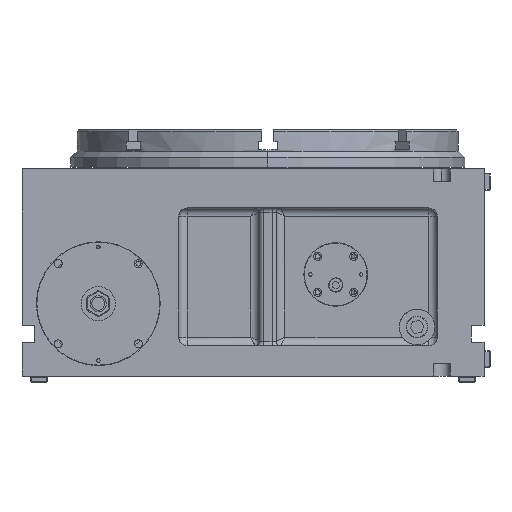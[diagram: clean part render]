
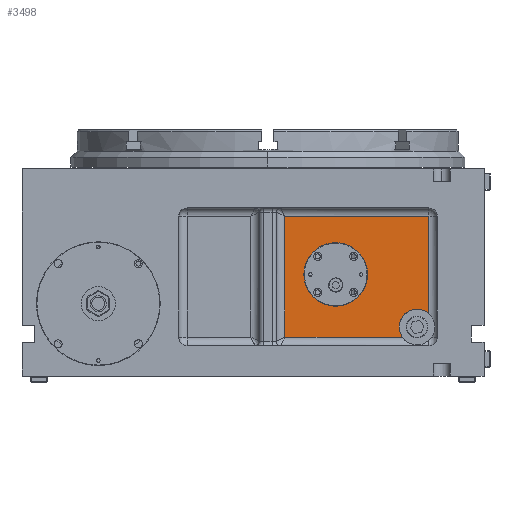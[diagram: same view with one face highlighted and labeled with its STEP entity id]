
A CAD part, left-side view. The second image highlights one B-rep face of the part: STEP entity #3498.
In plain terms, the highlighted planar face has unit normal (-1, 0, 0).
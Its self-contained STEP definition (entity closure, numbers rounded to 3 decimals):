
#464 = CARTESIAN_POINT ( 'NONE',  ( -225., -20., 103. ) ) ;
#913 = DIRECTION ( 'NONE',  ( 0., -1., 0. ) ) ;
#2104 = LINE ( 'NONE', #15626, #11884 ) ;
#2365 = CIRCLE ( 'NONE', #22887, 37.5 ) ;
#2939 = ORIENTED_EDGE ( 'NONE', *, *, #43615, .T. ) ;
#3498 = ADVANCED_FACE ( 'NONE', ( #22318, #31627 ), #35830, .T. ) ;
#3944 = CARTESIAN_POINT ( 'NONE',  ( -225., -155., -27.5 ) ) ;
#4118 = CARTESIAN_POINT ( 'NONE',  ( -225., -20., -49.5 ) ) ;
#4336 = DIRECTION ( 'NONE',  ( 0., 0., -1. ) ) ;
#4912 = VERTEX_POINT ( 'NONE', #3944 ) ;
#5001 = CARTESIAN_POINT ( 'NONE',  ( -225., -200., -39.5 ) ) ;
#5224 = EDGE_CURVE ( 'NONE', #38335, #21672, #2104, .T. ) ;
#5474 = DIRECTION ( 'NONE',  ( -1., 0., 0. ) ) ;
#6800 = EDGE_LOOP ( 'NONE', ( #29882, #40006, #2939, #17633, #40837, #8175 ) ) ;
#6810 = CARTESIAN_POINT ( 'NONE',  ( -225., -20., -39.5 ) ) ;
#7136 = EDGE_CURVE ( 'NONE', #43467, #38335, #21404, .T. ) ;
#8175 = ORIENTED_EDGE ( 'NONE', *, *, #28133, .T. ) ;
#8177 = DIRECTION ( 'NONE',  ( 0., -1., 0. ) ) ;
#8300 = VERTEX_POINT ( 'NONE', #6810 ) ;
#8562 = LINE ( 'NONE', #5001, #38115 ) ;
#8616 = CIRCLE ( 'NONE', #34063, 37.5 ) ;
#8914 = ORIENTED_EDGE ( 'NONE', *, *, #27638, .F. ) ;
#9497 = DIRECTION ( 'NONE',  ( 1., 0., 0. ) ) ;
#10231 = DIRECTION ( 'NONE',  ( -1., 0., 0. ) ) ;
#10398 = VERTEX_POINT ( 'NONE', #10473 ) ;
#10473 = CARTESIAN_POINT ( 'NONE',  ( -225., -117.5, 34.5 ) ) ;
#11347 = DIRECTION ( 'NONE',  ( 0., -1., 0. ) ) ;
#11884 = VECTOR ( 'NONE', #12319, 1000. ) ;
#12319 = DIRECTION ( 'NONE',  ( 0., 1., 0. ) ) ;
#13694 = VERTEX_POINT ( 'NONE', #15845 ) ;
#15626 = CARTESIAN_POINT ( 'NONE',  ( -225., -10., 103. ) ) ;
#15845 = CARTESIAN_POINT ( 'NONE',  ( -225., -42.5, 34.5 ) ) ;
#17066 = CARTESIAN_POINT ( 'NONE',  ( -225., -80., 34.5 ) ) ;
#17177 = EDGE_LOOP ( 'NONE', ( #8914, #38433 ) ) ;
#17633 = ORIENTED_EDGE ( 'NONE', *, *, #7136, .T. ) ;
#19672 = EDGE_CURVE ( 'NONE', #8300, #27041, #8562, .T. ) ;
#20952 = LINE ( 'NONE', #4118, #34093 ) ;
#21404 = LINE ( 'NONE', #27583, #23395 ) ;
#21672 = VERTEX_POINT ( 'NONE', #464 ) ;
#21806 = AXIS2_PLACEMENT_3D ( 'NONE', #30063, #9497, #22992 ) ;
#22238 = CARTESIAN_POINT ( 'NONE',  ( -225., -158.766, -39.5 ) ) ;
#22318 = FACE_BOUND ( 'NONE', #17177, .T. ) ;
#22887 = AXIS2_PLACEMENT_3D ( 'NONE', #17066, #37663, #30569 ) ;
#22963 = EDGE_CURVE ( 'NONE', #27041, #4912, #40913, .T. ) ;
#22992 = DIRECTION ( 'NONE',  ( 0., -1., 0. ) ) ;
#23395 = VECTOR ( 'NONE', #24054, 1000. ) ;
#23704 = CIRCLE ( 'NONE', #40657, 21. ) ;
#24054 = DIRECTION ( 'NONE',  ( 0., 0., 1. ) ) ;
#27041 = VERTEX_POINT ( 'NONE', #22238 ) ;
#27501 = DIRECTION ( 'NONE',  ( 1., 0., 0. ) ) ;
#27583 = CARTESIAN_POINT ( 'NONE',  ( -225., -190., 113. ) ) ;
#27638 = EDGE_CURVE ( 'NONE', #10398, #13694, #8616, .T. ) ;
#27678 = CARTESIAN_POINT ( 'NONE',  ( -225., -80., 34.5 ) ) ;
#28133 = EDGE_CURVE ( 'NONE', #21672, #8300, #20952, .T. ) ;
#29882 = ORIENTED_EDGE ( 'NONE', *, *, #19672, .T. ) ;
#30047 = CARTESIAN_POINT ( 'NONE',  ( -225., -190., 103. ) ) ;
#30063 = CARTESIAN_POINT ( 'NONE',  ( -225., -176., -27.5 ) ) ;
#30569 = DIRECTION ( 'NONE',  ( 0., -1., 0. ) ) ;
#30780 = EDGE_CURVE ( 'NONE', #13694, #10398, #2365, .T. ) ;
#31270 = AXIS2_PLACEMENT_3D ( 'NONE', #38711, #5474, #8177 ) ;
#31627 = FACE_OUTER_BOUND ( 'NONE', #6800, .T. ) ;
#32036 = DIRECTION ( 'NONE',  ( 0., -1., 0. ) ) ;
#34063 = AXIS2_PLACEMENT_3D ( 'NONE', #27678, #10231, #913 ) ;
#34093 = VECTOR ( 'NONE', #4336, 1000. ) ;
#35830 = PLANE ( 'NONE',  #31270 ) ;
#37663 = DIRECTION ( 'NONE',  ( -1., 0., 0. ) ) ;
#37933 = CARTESIAN_POINT ( 'NONE',  ( -225., -176., -27.5 ) ) ;
#38115 = VECTOR ( 'NONE', #32036, 1000. ) ;
#38335 = VERTEX_POINT ( 'NONE', #30047 ) ;
#38433 = ORIENTED_EDGE ( 'NONE', *, *, #30780, .F. ) ;
#38711 = CARTESIAN_POINT ( 'NONE',  ( -225., -10., 113. ) ) ;
#40006 = ORIENTED_EDGE ( 'NONE', *, *, #22963, .T. ) ;
#40657 = AXIS2_PLACEMENT_3D ( 'NONE', #37933, #27501, #11347 ) ;
#40837 = ORIENTED_EDGE ( 'NONE', *, *, #5224, .T. ) ;
#40913 = CIRCLE ( 'NONE', #21806, 21. ) ;
#43467 = VERTEX_POINT ( 'NONE', #43691 ) ;
#43615 = EDGE_CURVE ( 'NONE', #4912, #43467, #23704, .T. ) ;
#43691 = CARTESIAN_POINT ( 'NONE',  ( -225., -190., -11.848 ) ) ;
